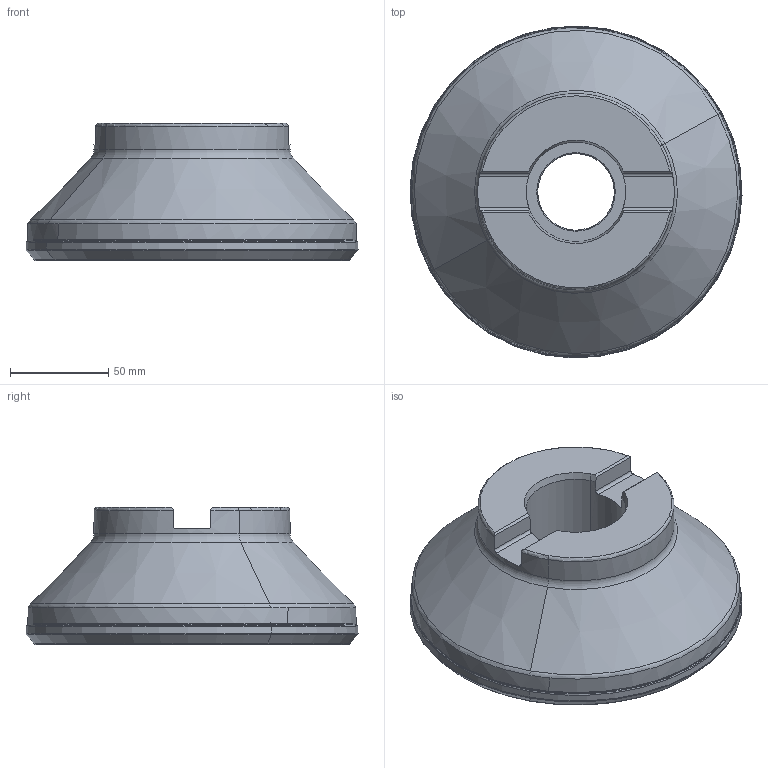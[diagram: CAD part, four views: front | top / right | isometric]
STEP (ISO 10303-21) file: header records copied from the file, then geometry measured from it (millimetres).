
FILE_DESCRIPTION(('CATIA V5 STEP','CAx-IF Rec.Pracs.--- Model Styling and Organization---1.2---2011-12-15'),'2;1');
FILE_NAME('N:\data\isr\design\special1\users\NATALY_B\Tal\NPA\3106861\IQ845 FSYD160-11-50.8-R07-L.stp','2016-06-07T07:08:30+00:00',('none'),('none'),'CATIA Version 5 Release 21 SP 5 (IN-10)','CATIA V5 STEP AP214','none');
FILE_SCHEMA(('AUTOMOTIVE_DESIGN { 1 0 10303 214 1 1 1 1 }'));
Length unit declared in the file: millimetre
Products named in the file (1): IQ845 FSYD160-11-50.8-R07
Bounding box: 169.13 x 169.13 x 70 mm (x, y, z)
Volume: 806030.2 mm3; surface area: 94075.3 mm2
Topology: 2 solids, 2 shells, 110 faces, 263 edges, 158 vertices
Faces by surface type: revolution 54, plane 16, torus 16, cylinder 12, cone 12
Entity records: 3730 total; most frequent: CARTESIAN_POINT 1462, ORIENTED_EDGE 490, DIRECTION 301, EDGE_CURVE 245, AXIS2_PLACEMENT_3D 159, B_SPLINE_CURVE_WITH_KNOTS 148, VERTEX_POINT 139, CIRCLE 119
